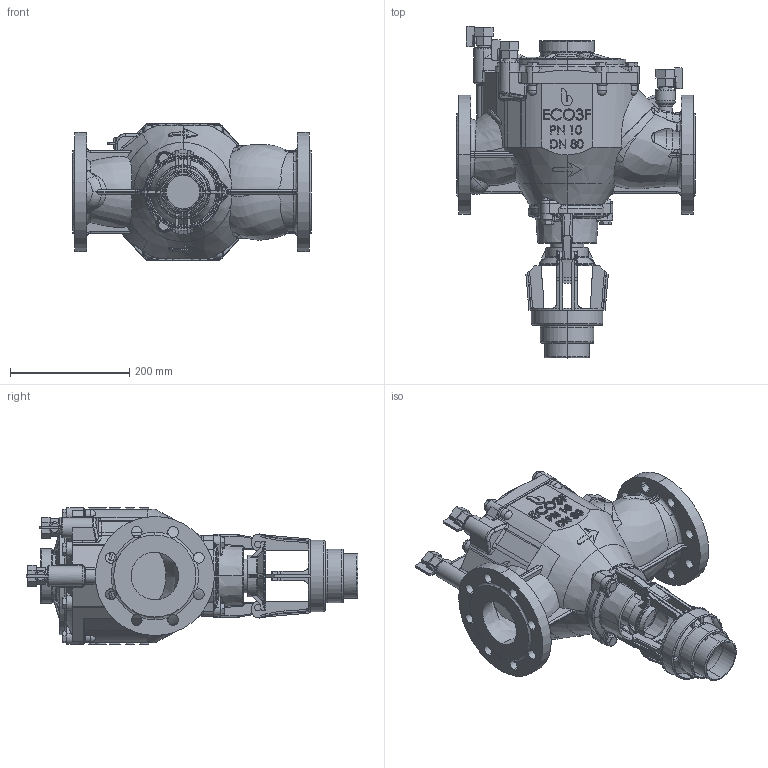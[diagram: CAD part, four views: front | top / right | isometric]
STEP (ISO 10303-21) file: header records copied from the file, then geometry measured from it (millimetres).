
FILE_DESCRIPTION (( 'STEP AP203' ), '1' );
FILE_NAME ('ECO3F.080.STEP', '2011-02-09T13:27:17', ( ' ' ), ( '' ), 'SwSTEP 2.0', 'SolidWorks 2009', '' );
FILE_SCHEMA (( 'CONFIG_CONTROL_DESIGN' ));
Products named in the file (1): ECO3F.080
Bounding box: 400 x 557.73 x 230 mm (x, y, z)
Volume: 6272389.8 mm3; surface area: 1001728.8 mm2
Topology: 1 solids, 29 shells, 2692 faces, 6998 edges, 4350 vertices
Faces by surface type: plane 900, bspline 549, cylinder 547, cone 371, torus 259, sphere 66
Entity records: 133606 total; most frequent: CARTESIAN_POINT 73472, ORIENTED_EDGE 13792, DIRECTION 10882, EDGE_CURVE 6896, VERTEX_POINT 4326, AXIS2_PLACEMENT_3D 4242, EDGE_LOOP 2846, FACE_OUTER_BOUND 2692
